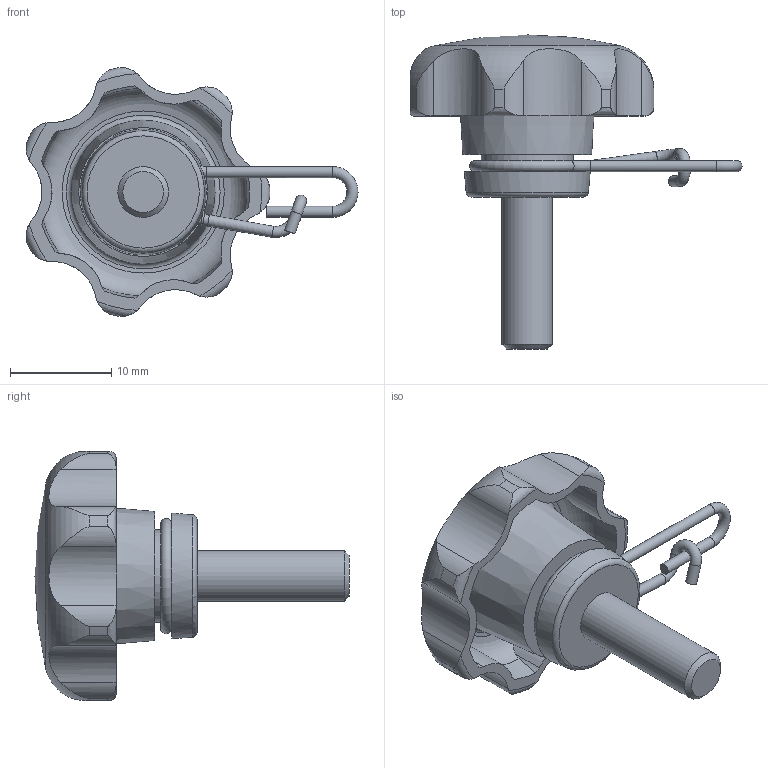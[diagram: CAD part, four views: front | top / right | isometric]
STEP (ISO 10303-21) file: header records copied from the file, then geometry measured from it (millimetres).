
FILE_DESCRIPTION( ( 'STEP AP203' ), '1' );
FILE_NAME( 'C:/Temp/Ganter_Step_05_03_2020/data/2_2/gn_6336_13/gn_6336_13_2/Star knob GN 6336.13-25-M5-15-A.stp', '2020-03-05T12:11:01', ( 'License CC BY-ND 4.0' ), ( 'CADENAS' ), ' ', 'PARTsolutions', ' ' );
FILE_SCHEMA( ( 'CONFIG_CONTROL_DESIGN' ) );
Length unit declared in the file: millimetre
Products named in the file (1): _Star knob GN 6336.13-25-M5-15-A
Bounding box: 32.77 x 31 x 24.58 mm (x, y, z)
Volume: 3360.7 mm3; surface area: 2596.5 mm2
Topology: 1 solids, 1 shells, 99 faces, 271 edges, 176 vertices
Faces by surface type: cylinder 59, torus 18, cone 11, plane 10, sphere 1
Full cylindrical faces by diameter (mm): 1.1 x6, 5 x1, 9.1 x1
Entity records: 3678 total; most frequent: CARTESIAN_POINT 1311, DIRECTION 476, ORIENTED_EDGE 476, EDGE_CURVE 238, AXIS2_PLACEMENT_3D 213, VERTEX_POINT 170, EDGE_LOOP 127, FACE_OUTER_BOUND 117
